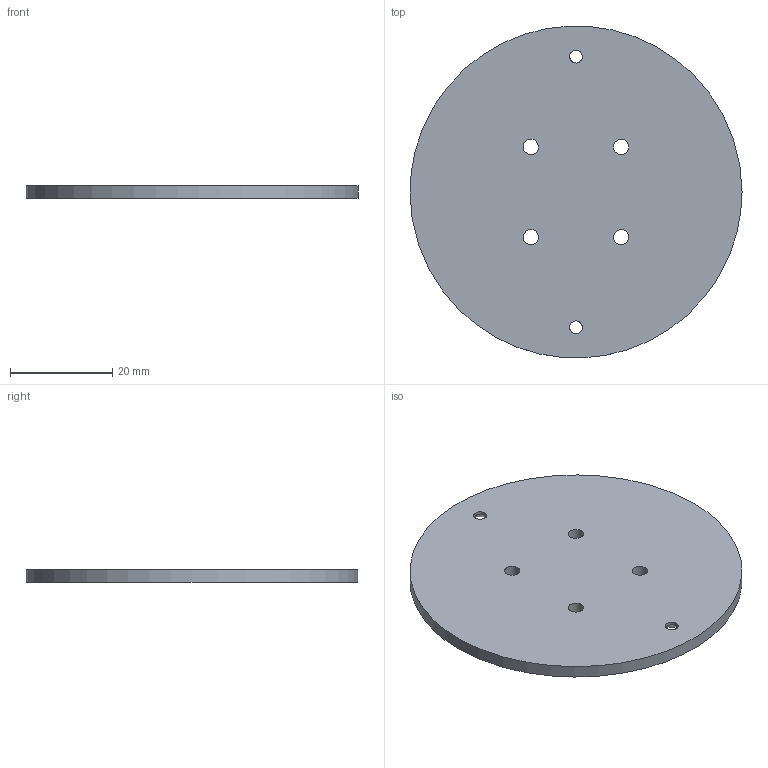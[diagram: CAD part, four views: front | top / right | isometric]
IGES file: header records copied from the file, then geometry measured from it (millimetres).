
Global section: file name: Tapa Cansat  inferior; native system: Autodesk Inventor 2022; preprocessor: unknown; author: Daniel; date: 20220607.174835; units: millimetre
Bounding box: 65 x 64.94 x 2.5 mm (x, y, z)
Volume: 8159.7 mm3; surface area: 7196.7 mm2
Topology: 1 solids, 1 shells, 11 faces, 31 edges, 22 vertices
Faces by surface type: bspline 11
